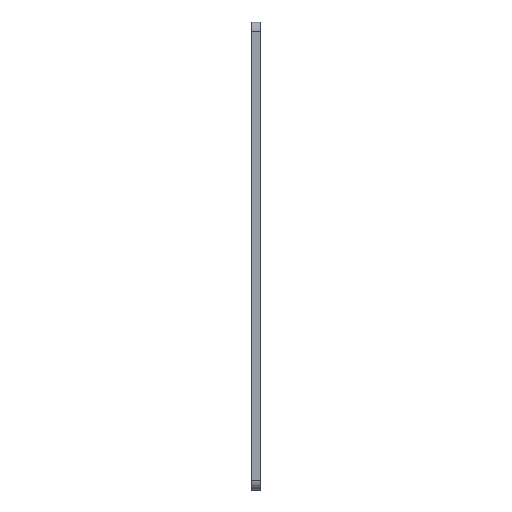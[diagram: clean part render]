
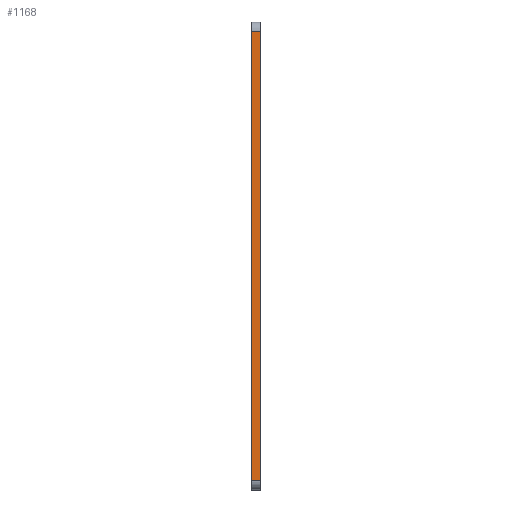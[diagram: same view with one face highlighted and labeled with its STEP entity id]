
A CAD part, left-side view. The second image highlights one B-rep face of the part: STEP entity #1168.
In plain terms, the highlighted planar face has unit normal (-1, 0, 0).
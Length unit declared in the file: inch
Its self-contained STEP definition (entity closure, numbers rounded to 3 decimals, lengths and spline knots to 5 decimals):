
#89 = VERTEX_POINT ( 'NONE', #1581 ) ;
#113 = VERTEX_POINT ( 'NONE', #1194 ) ;
#190 = VERTEX_POINT ( 'NONE', #530 ) ;
#235 = AXIS2_PLACEMENT_3D ( 'NONE', #243, #1343, #757 ) ;
#243 = CARTESIAN_POINT ( 'NONE',  ( 0., -0.25, 0. ) ) ;
#352 = ORIENTED_EDGE ( 'NONE', *, *, #929, .F. ) ;
#419 = DIRECTION ( 'NONE',  ( 0., 0., 1. ) ) ;
#444 = CARTESIAN_POINT ( 'NONE',  ( 0., -0.25, -0.25 ) ) ;
#454 = LINE ( 'NONE', #889, #1058 ) ;
#524 = VERTEX_POINT ( 'NONE', #1528 ) ;
#530 = CARTESIAN_POINT ( 'NONE',  ( 0., 0., -12.25 ) ) ;
#707 = DIRECTION ( 'NONE',  ( 0., 0., 1. ) ) ;
#735 = VECTOR ( 'NONE', #707, 39.37008 ) ;
#747 = DIRECTION ( 'NONE',  ( 0., 1., 0. ) ) ;
#757 = DIRECTION ( 'NONE',  ( 0., 0., 1. ) ) ;
#846 = ORIENTED_EDGE ( 'NONE', *, *, #1287, .T. ) ;
#889 = CARTESIAN_POINT ( 'NONE',  ( 0., -0.25, 0. ) ) ;
#915 = PLANE ( 'NONE',  #235 ) ;
#928 = VECTOR ( 'NONE', #747, 39.37008 ) ;
#929 = EDGE_CURVE ( 'NONE', #190, #89, #1555, .T. ) ;
#953 = EDGE_CURVE ( 'NONE', #190, #113, #1106, .T. ) ;
#995 = LINE ( 'NONE', #444, #928 ) ;
#1021 = DIRECTION ( 'NONE',  ( 0., -1., 0. ) ) ;
#1058 = VECTOR ( 'NONE', #419, 39.37008 ) ;
#1073 = ORIENTED_EDGE ( 'NONE', *, *, #953, .T. ) ;
#1106 = LINE ( 'NONE', #1407, #1211 ) ;
#1168 = ADVANCED_FACE ( 'NONE', ( #1743 ), #915, .T. ) ;
#1194 = CARTESIAN_POINT ( 'NONE',  ( 0., -0.25, -12.25 ) ) ;
#1211 = VECTOR ( 'NONE', #1021, 39.37008 ) ;
#1275 = CARTESIAN_POINT ( 'NONE',  ( 0., 0., 0. ) ) ;
#1287 = EDGE_CURVE ( 'NONE', #524, #89, #995, .T. ) ;
#1343 = DIRECTION ( 'NONE',  ( -1., 0., 0. ) ) ;
#1345 = EDGE_CURVE ( 'NONE', #113, #524, #454, .T. ) ;
#1407 = CARTESIAN_POINT ( 'NONE',  ( 0., -0.25, -12.25 ) ) ;
#1499 = ORIENTED_EDGE ( 'NONE', *, *, #1345, .T. ) ;
#1528 = CARTESIAN_POINT ( 'NONE',  ( 0., -0.25, -0.25 ) ) ;
#1555 = LINE ( 'NONE', #1275, #735 ) ;
#1581 = CARTESIAN_POINT ( 'NONE',  ( 0., 0., -0.25 ) ) ;
#1652 = EDGE_LOOP ( 'NONE', ( #352, #1073, #1499, #846 ) ) ;
#1743 = FACE_OUTER_BOUND ( 'NONE', #1652, .T. ) ;
